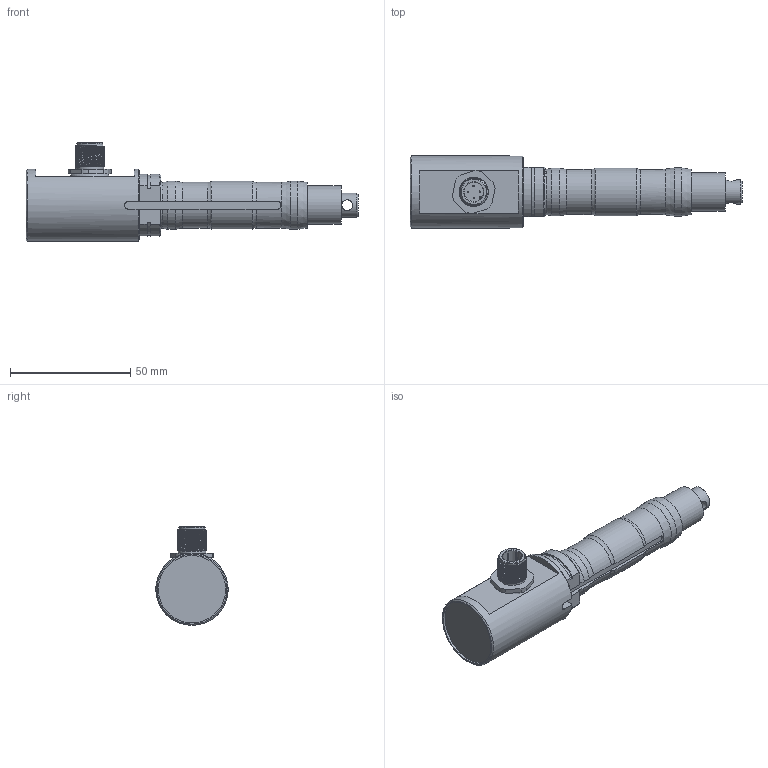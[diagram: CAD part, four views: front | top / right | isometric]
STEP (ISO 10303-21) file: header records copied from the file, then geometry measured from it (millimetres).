
FILE_DESCRIPTION(/* description */ ('Alibre Inc.'),/* implementation_level */ '2;1');
FILE_NAME(/* name */ 'export-5B2561E3-F3BA-4690-9475-DE9785B68960',/* time_stamp */ '2019-04-10T08:57:39+02:00',/* author */ (''),/* organization */ (''),/* preprocessor_version */ 'ST-DEVELOPER v17',/* originating_system */ 'Alibre',/* authorisation */ '');
FILE_SCHEMA (('CONFIG_CONTROL_DESIGN'));
Length unit declared in the file: centimetre
Products named in the file (3): ID_1
Bounding box: 138 x 30 x 41 mm (x, y, z)
Volume: 116999.9 mm3; surface area: 86956.3 mm2
Topology: 6 solids, 7 shells, 183 faces, 436 edges, 277 vertices
Faces by surface type: plane 73, cylinder 61, bspline 23, cone 18, torus 8
Full cylindrical faces by diameter (mm): 0.5 x8, 4.5 x1, 8 x2, 10 x3, 11 x1, 11.5 x1, 13 x2, 14.5 x1, 16 x1, 20 x1, 28 x1, 30 x1
Entity records: 15477 total; most frequent: CARTESIAN_POINT 11762, ORIENTED_EDGE 790, DIRECTION 513, EDGE_CURVE 388, VERTEX_POINT 262, EDGE_LOOP 240, FACE_BOUND 240, AXIS2_PLACEMENT_3D 220
